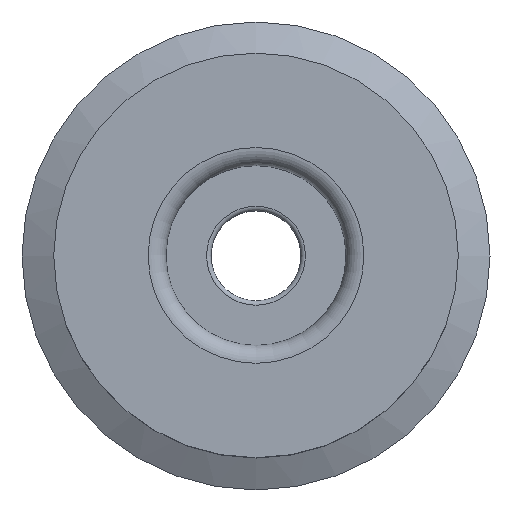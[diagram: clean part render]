
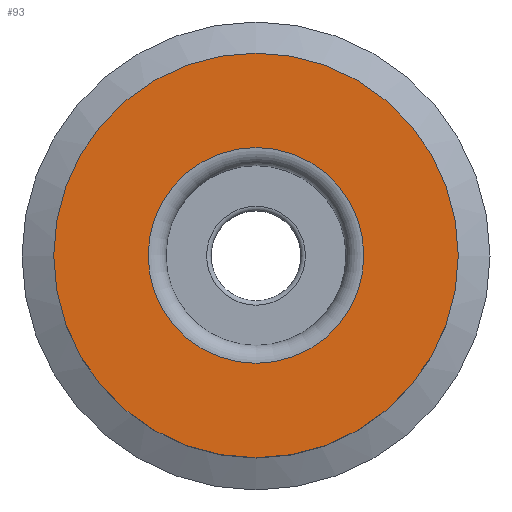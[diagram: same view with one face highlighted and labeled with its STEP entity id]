
A CAD part, top view. The second image highlights one B-rep face of the part: STEP entity #93.
In plain terms, the highlighted planar face has unit normal (0, 0, 1).
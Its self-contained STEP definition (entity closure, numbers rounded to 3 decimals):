
#93=ADVANCED_FACE('',(#196,#197),#198,.T.);
#196=FACE_BOUND('',#349,.T.);
#197=FACE_OUTER_BOUND('',#350,.T.);
#198=PLANE('',#351);
#349=EDGE_LOOP('',(#538));
#350=EDGE_LOOP('',(#539));
#351=AXIS2_PLACEMENT_3D('',#540,#541,#542);
#538=ORIENTED_EDGE('',*,*,#696,.T.);
#539=ORIENTED_EDGE('',*,*,#723,.T.);
#540=CARTESIAN_POINT('',(2.0,0.,7.5));
#541=DIRECTION('',(0.0,0.,1.0));
#542=DIRECTION('',(0.0,-1.0,0.));
#696=EDGE_CURVE('',#755,#755,#756,.F.);
#723=EDGE_CURVE('',#809,#809,#810,.T.);
#755=VERTEX_POINT('',#857);
#756=CIRCLE('',#858,2.4);
#809=VERTEX_POINT('',#911);
#810=CIRCLE('',#912,4.5);
#857=CARTESIAN_POINT('',(0.0,-2.4,7.5));
#858=AXIS2_PLACEMENT_3D('',#967,#968,#969);
#911=CARTESIAN_POINT('',(0.0,-4.5,7.5));
#912=AXIS2_PLACEMENT_3D('',#1048,#1049,#1050);
#967=CARTESIAN_POINT('',(0.0,0.,7.5));
#968=DIRECTION('',(0.0,0.,1.0));
#969=DIRECTION('',(0.0,-1.0,0.));
#1048=CARTESIAN_POINT('',(0.0,0.,7.5));
#1049=DIRECTION('',(0.0,0.,1.0));
#1050=DIRECTION('',(0.0,-1.0,0.));
